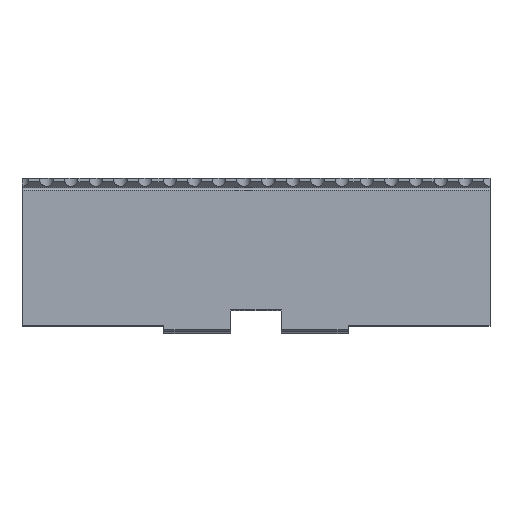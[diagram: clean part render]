
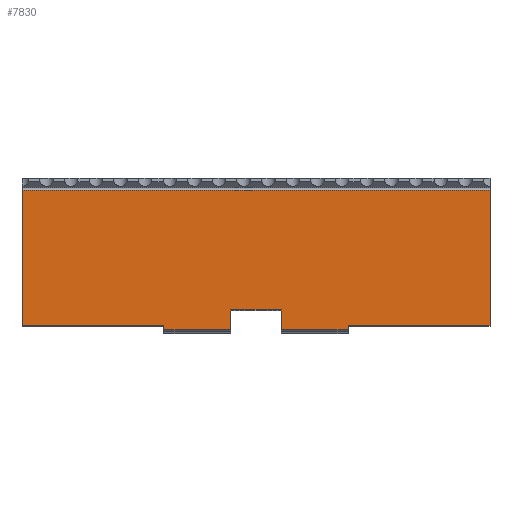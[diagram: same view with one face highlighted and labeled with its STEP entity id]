
A CAD part, top view. The second image highlights one B-rep face of the part: STEP entity #7830.
In plain terms, the highlighted planar face has unit normal (0, 0, 1).
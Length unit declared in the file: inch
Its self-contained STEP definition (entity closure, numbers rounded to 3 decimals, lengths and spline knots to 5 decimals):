
#394 = CARTESIAN_POINT ( 'NONE',  ( -0.7874, -0.16685, -0.05 ) ) ;
#549 = VERTEX_POINT ( 'NONE', #15549 ) ;
#588 = VERTEX_POINT ( 'NONE', #14033 ) ;
#809 = ORIENTED_EDGE ( 'NONE', *, *, #1486, .T. ) ;
#1085 = LINE ( 'NONE', #18008, #17456 ) ;
#1237 = ORIENTED_EDGE ( 'NONE', *, *, #14723, .T. ) ;
#1415 = VECTOR ( 'NONE', #8618, 39.37008 ) ;
#1418 = CARTESIAN_POINT ( 'NONE',  ( -0.7874, -0.13567, -0.05 ) ) ;
#1486 = EDGE_CURVE ( 'NONE', #549, #15385, #1085, .T. ) ;
#1538 = ORIENTED_EDGE ( 'NONE', *, *, #2226, .F. ) ;
#1588 = VECTOR ( 'NONE', #10521, 39.37008 ) ;
#1731 = EDGE_CURVE ( 'NONE', #19690, #2486, #3584, .T. ) ;
#2099 = DIRECTION ( 'NONE',  ( -1., 0., 0. ) ) ;
#2217 = LINE ( 'NONE', #9858, #8451 ) ;
#2226 = EDGE_CURVE ( 'NONE', #588, #3636, #2217, .T. ) ;
#2439 = EDGE_CURVE ( 'NONE', #588, #15162, #13685, .T. ) ;
#2486 = VERTEX_POINT ( 'NONE', #7524 ) ;
#3584 = LINE ( 'NONE', #19084, #14565 ) ;
#3596 = CARTESIAN_POINT ( 'NONE',  ( -0.21654, -0.16685, -0.05 ) ) ;
#3610 = CARTESIAN_POINT ( 'NONE',  ( 2., 1.025, -0.05 ) ) ;
#3636 = VERTEX_POINT ( 'NONE', #11321 ) ;
#3784 = EDGE_CURVE ( 'NONE', #13762, #549, #19018, .T. ) ;
#4200 = DIRECTION ( 'NONE',  ( 0., -1., 0. ) ) ;
#4431 = LINE ( 'NONE', #19852, #18155 ) ;
#5219 = CARTESIAN_POINT ( 'NONE',  ( -2., -0.13567, -0.05 ) ) ;
#5448 = ORIENTED_EDGE ( 'NONE', *, *, #19520, .T. ) ;
#6043 = AXIS2_PLACEMENT_3D ( 'NONE', #7542, #7245, #13404 ) ;
#6230 = LINE ( 'NONE', #1418, #7467 ) ;
#6454 = CARTESIAN_POINT ( 'NONE',  ( 2., -0.13567, -0.05 ) ) ;
#6839 = DIRECTION ( 'NONE',  ( -1., 0., 0. ) ) ;
#7245 = DIRECTION ( 'NONE',  ( 0., 0., -1. ) ) ;
#7467 = VECTOR ( 'NONE', #16923, 39.37008 ) ;
#7468 = DIRECTION ( 'NONE',  ( 1., 0., 0. ) ) ;
#7524 = CARTESIAN_POINT ( 'NONE',  ( 0.7874, -0.13567, -0.05 ) ) ;
#7542 = CARTESIAN_POINT ( 'NONE',  ( 2., 0., -0.05 ) ) ;
#7561 = LINE ( 'NONE', #18260, #8026 ) ;
#7792 = CARTESIAN_POINT ( 'NONE',  ( 2., 0., -0.05 ) ) ;
#7830 = ADVANCED_FACE ( 'NONE', ( #19746 ), #18440, .F. ) ;
#8006 = CARTESIAN_POINT ( 'NONE',  ( 0.7874, -0.16685, -0.05 ) ) ;
#8026 = VECTOR ( 'NONE', #7468, 39.37008 ) ;
#8381 = ORIENTED_EDGE ( 'NONE', *, *, #16468, .T. ) ;
#8451 = VECTOR ( 'NONE', #6839, 39.37008 ) ;
#8618 = DIRECTION ( 'NONE',  ( 1., 0., 0. ) ) ;
#8718 = LINE ( 'NONE', #11954, #1588 ) ;
#9858 = CARTESIAN_POINT ( 'NONE',  ( 2., 0., -0.05 ) ) ;
#10338 = EDGE_CURVE ( 'NONE', #10781, #11023, #18438, .T. ) ;
#10521 = DIRECTION ( 'NONE',  ( 1., 0., 0. ) ) ;
#10746 = VECTOR ( 'NONE', #2099, 39.37008 ) ;
#10781 = VERTEX_POINT ( 'NONE', #394 ) ;
#11023 = VERTEX_POINT ( 'NONE', #3596 ) ;
#11151 = EDGE_LOOP ( 'NONE', ( #14767, #15784, #14443, #1538, #13845, #1237, #13410, #8381, #11814, #13343, #809, #5448 ) ) ;
#11321 = CARTESIAN_POINT ( 'NONE',  ( -0.21654, 0., -0.05 ) ) ;
#11690 = VECTOR ( 'NONE', #16606, 39.37008 ) ;
#11814 = ORIENTED_EDGE ( 'NONE', *, *, #16091, .F. ) ;
#11844 = VERTEX_POINT ( 'NONE', #12277 ) ;
#11954 = CARTESIAN_POINT ( 'NONE',  ( -2., -0.13567, -0.05 ) ) ;
#12197 = DIRECTION ( 'NONE',  ( 0., 1., 0. ) ) ;
#12277 = CARTESIAN_POINT ( 'NONE',  ( -0.7874, -0.13567, -0.05 ) ) ;
#12867 = VECTOR ( 'NONE', #18143, 39.37008 ) ;
#13343 = ORIENTED_EDGE ( 'NONE', *, *, #3784, .T. ) ;
#13404 = DIRECTION ( 'NONE',  ( -1., 0., 0. ) ) ;
#13410 = ORIENTED_EDGE ( 'NONE', *, *, #1731, .T. ) ;
#13606 = CARTESIAN_POINT ( 'NONE',  ( 0.21654, -0.16685, -0.05 ) ) ;
#13685 = LINE ( 'NONE', #13787, #11690 ) ;
#13704 = CARTESIAN_POINT ( 'NONE',  ( -0.21654, -0.16685, -0.05 ) ) ;
#13762 = VERTEX_POINT ( 'NONE', #15971 ) ;
#13787 = CARTESIAN_POINT ( 'NONE',  ( 0.21654, -0.19685, -0.05 ) ) ;
#13845 = ORIENTED_EDGE ( 'NONE', *, *, #2439, .T. ) ;
#14033 = CARTESIAN_POINT ( 'NONE',  ( 0.21654, 0., -0.05 ) ) ;
#14100 = EDGE_CURVE ( 'NONE', #11844, #10781, #6230, .T. ) ;
#14171 = DIRECTION ( 'NONE',  ( 0., 1., 0. ) ) ;
#14427 = VECTOR ( 'NONE', #18388, 39.37008 ) ;
#14443 = ORIENTED_EDGE ( 'NONE', *, *, #15230, .T. ) ;
#14565 = VECTOR ( 'NONE', #14171, 39.37008 ) ;
#14723 = EDGE_CURVE ( 'NONE', #15162, #19690, #17899, .T. ) ;
#14767 = ORIENTED_EDGE ( 'NONE', *, *, #14100, .T. ) ;
#15162 = VERTEX_POINT ( 'NONE', #13606 ) ;
#15230 = EDGE_CURVE ( 'NONE', #11023, #3636, #4431, .T. ) ;
#15385 = VERTEX_POINT ( 'NONE', #5219 ) ;
#15549 = CARTESIAN_POINT ( 'NONE',  ( -2., 1.025, -0.05 ) ) ;
#15784 = ORIENTED_EDGE ( 'NONE', *, *, #10338, .T. ) ;
#15971 = CARTESIAN_POINT ( 'NONE',  ( 2., 1.025, -0.05 ) ) ;
#16091 = EDGE_CURVE ( 'NONE', #13762, #19114, #16874, .T. ) ;
#16468 = EDGE_CURVE ( 'NONE', #2486, #19114, #7561, .T. ) ;
#16606 = DIRECTION ( 'NONE',  ( 0., -1., 0. ) ) ;
#16874 = LINE ( 'NONE', #7792, #14427 ) ;
#16923 = DIRECTION ( 'NONE',  ( 0., -1., 0. ) ) ;
#17456 = VECTOR ( 'NONE', #4200, 39.37008 ) ;
#17899 = LINE ( 'NONE', #19199, #1415 ) ;
#18008 = CARTESIAN_POINT ( 'NONE',  ( -2., 0., -0.05 ) ) ;
#18143 = DIRECTION ( 'NONE',  ( 1., 0., 0. ) ) ;
#18155 = VECTOR ( 'NONE', #12197, 39.37008 ) ;
#18260 = CARTESIAN_POINT ( 'NONE',  ( 2., -0.13567, -0.05 ) ) ;
#18388 = DIRECTION ( 'NONE',  ( 0., -1., 0. ) ) ;
#18438 = LINE ( 'NONE', #13704, #12867 ) ;
#18440 = PLANE ( 'NONE',  #6043 ) ;
#19018 = LINE ( 'NONE', #3610, #10746 ) ;
#19084 = CARTESIAN_POINT ( 'NONE',  ( 0.7874, -0.13567, -0.05 ) ) ;
#19114 = VERTEX_POINT ( 'NONE', #6454 ) ;
#19199 = CARTESIAN_POINT ( 'NONE',  ( 0.7874, -0.16685, -0.05 ) ) ;
#19520 = EDGE_CURVE ( 'NONE', #15385, #11844, #8718, .T. ) ;
#19690 = VERTEX_POINT ( 'NONE', #8006 ) ;
#19746 = FACE_OUTER_BOUND ( 'NONE', #11151, .T. ) ;
#19852 = CARTESIAN_POINT ( 'NONE',  ( -0.21654, -0.19685, -0.05 ) ) ;
